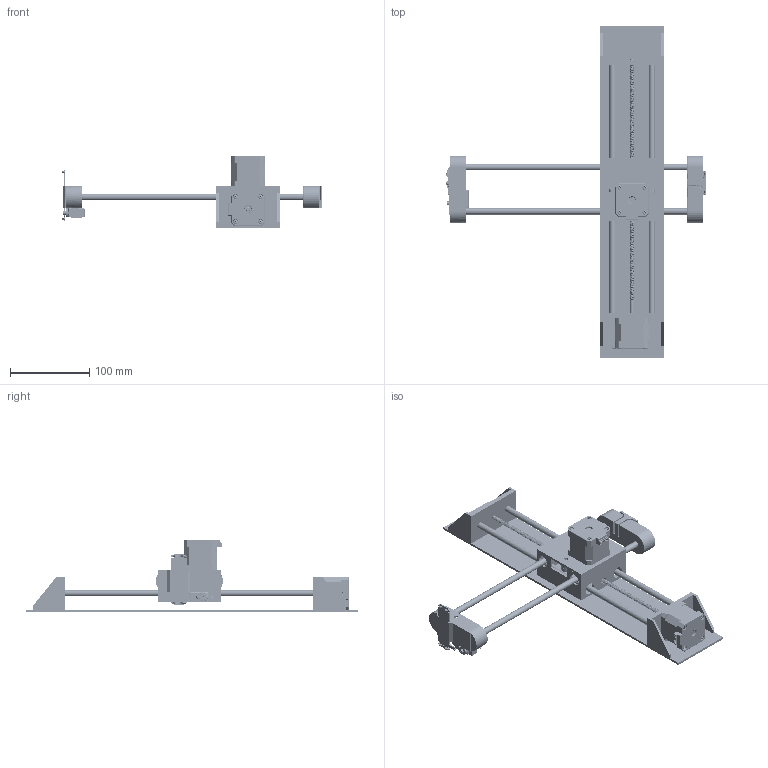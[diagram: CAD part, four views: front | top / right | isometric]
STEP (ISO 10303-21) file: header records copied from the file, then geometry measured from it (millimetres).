
FILE_DESCRIPTION(/* description */ (''),/* implementation_level */ '2;1');
FILE_NAME(/* name */ 'D:/User/Documents/fabacademy/files/plotter v34.step',/* time_stamp */ '2020-09-22T18:10:26+02:00',/* author */ (''),/* organization */ (''),/* preprocessor_version */ 'ST-DEVELOPER v18.1',/* originating_system */ 'Autodesk Translation Framework v9.3.0.1241',/* authorisation */ '');
FILE_SCHEMA (('AUTOMOTIVE_DESIGN { 1 0 10303 214 3 1 1 }'));
Length unit declared in the file: millimetre
Products named in the file (29): plotter; NEMA17; belt puley; servo; Component6; Component7; Component8; Component9; Component10; Component11; Component12; Component13; Component14; Component15; Component16; Component17; Component18; Component19; Component20; Component21; Component22; Component23; Component24; Component25; Component26; Component27; Component29; Component30; bearing
Assembly tree (34 placements, depth 2):
  plotter
    NEMA17  x2
    belt puley
    servo
    Component6
    Component7
    Component8
    Component9
    Component10
    Component11
    Component12
    Component13
    Component14
    Component15
    Component16
    Component17
    Component18
    Component19
    Component20
    Component21
    Component22
    Component23
    Component24
    Component25
    Component26
    Component27
    Component29
    Component30
    bearing  x6
Bounding box: 330.02 x 420 x 91.72 mm (x, y, z)
Volume: 419010.3 mm3; surface area: 265527.9 mm2
Topology: 72 solids, 72 shells, 2549 faces, 6780 edges, 4391 vertices
Faces by surface type: cylinder 1189, plane 1172, torus 102, sphere 36, cone 34, bspline 16
Full cylindrical faces by diameter (mm): 1 x3, 1.5 x1, 1.6 x1, 2 x4, 2.675 x8, 2.927 x8, 3 x20, 3.709 x8, 3.99 x177, 4 x6, 4.901 x292, 5 x15, 5.5 x8, 6 x8, 6.5 x4, 6.6 x4, 8 x12, 8.572 x4, 9 x5, 13 x6, 13.336 x4, 14.1 x2, 14.8 x8, 15 x4, 22 x3, 23 x1, 30.707 x2
Entity records: 116841 total; most frequent: CARTESIAN_POINT 63428, ORIENTED_EDGE 11854, DIRECTION 9322, EDGE_CURVE 5927, VERTEX_POINT 3867, LINE 3444, VECTOR 3444, AXIS2_PLACEMENT_3D 2939
